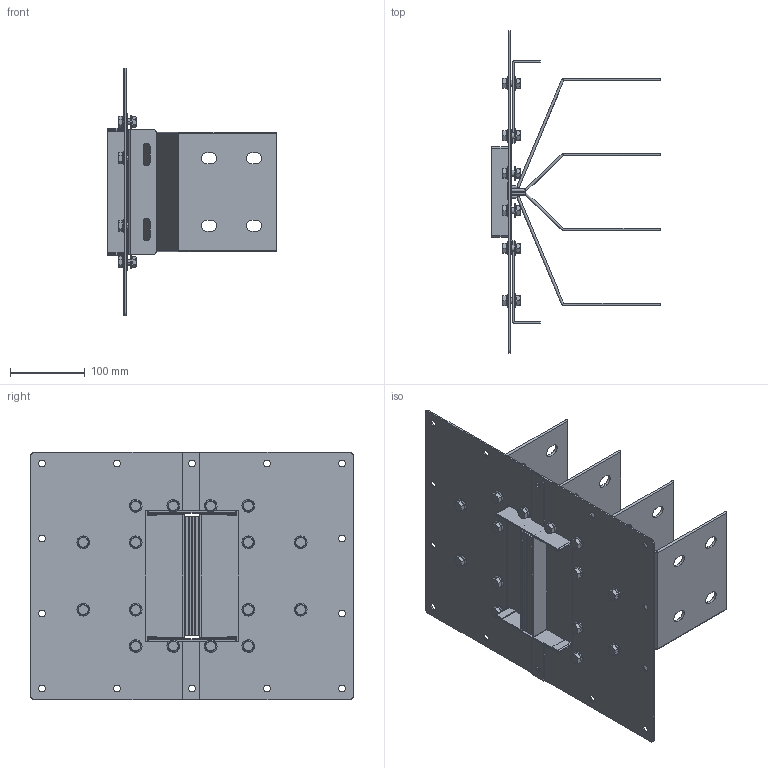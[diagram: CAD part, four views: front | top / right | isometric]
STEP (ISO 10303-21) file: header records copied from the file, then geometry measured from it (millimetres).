
FILE_DESCRIPTION(('CATIA V5 STEP','CAx-IF Rec.Pracs.--- Model Styling and Organization---1.5--- 2016-08-15','CAx-IF Rec.Pracs.---Supplemental Geometry---1.0---2011-11-01','CAx-IF Rec.Pracs.--- Composite Materials ---1.1---2010-07-15'),'2;1');
FILE_NAME('K:\COSCN 2011\32372311_RiduzioneSezioniBarre\03_Studio\__Modelli semplificati\XCP_UB semplificati per studi\XCP-S_UB_4C_Pe_STD_Assieme\Al\XCP-S_UB_4C_Pe_S_Assieme - 1250A Al\XCP-S_UB_4C_Pe_S_Assieme - 1250A Al.stp','2025-05-12T12:28:37+00:00',('Utente Bticino'),('Bticino S.p.A.'),'CATIA Version 5-6 Release 2020 SP5','CATIA V5 STEP AP214 v2','none');
FILE_SCHEMA(('AUTOMOTIVE_DESIGN { 1 0 10303 214 1 1 1 1 }'));
Length unit declared in the file: millimetre
Products named in the file (7): XCP-S_UB_4C_Pe_S_Assieme - 1250A Al; XCP-S_UB_4C_Pe_S_PaccoBarre_1250A Al; XCP-S_UB_4C_Pe_S_Lamiere_1250A Al; Viteria UB H130; Ass Vite+dado M8; Steel hex flanged SCREW M12x16; Steel hex flanged NUT M8
Assembly tree (21 placements, depth 4):
  XCP-S_UB_4C_Pe_S_Assieme - 1250A Al
    XCP-S_UB_4C_Pe_S_PaccoBarre_1250A Al
    XCP-S_UB_4C_Pe_S_Lamiere_1250A Al
    Viteria UB H130
      Ass Vite+dado M8  x16
        Steel hex flanged SCREW M12x16
        Steel hex flanged NUT M8
Bounding box: 225 x 430 x 330 mm (x, y, z)
Volume: 1079906.7 mm3; surface area: 850631.8 mm2
Topology: 44 solids, 44 shells, 1140 faces, 2800 edges, 1780 vertices
Faces by surface type: plane 480, cylinder 372, cone 128, bspline 128, torus 32
Entity records: 14698 total; most frequent: CARTESIAN_POINT 3426, ORIENTED_EDGE 2420, DIRECTION 1904, EDGE_CURVE 1210, AXIS2_PLACEMENT_3D 800, VERTEX_POINT 790, VECTOR 724, LINE 724
